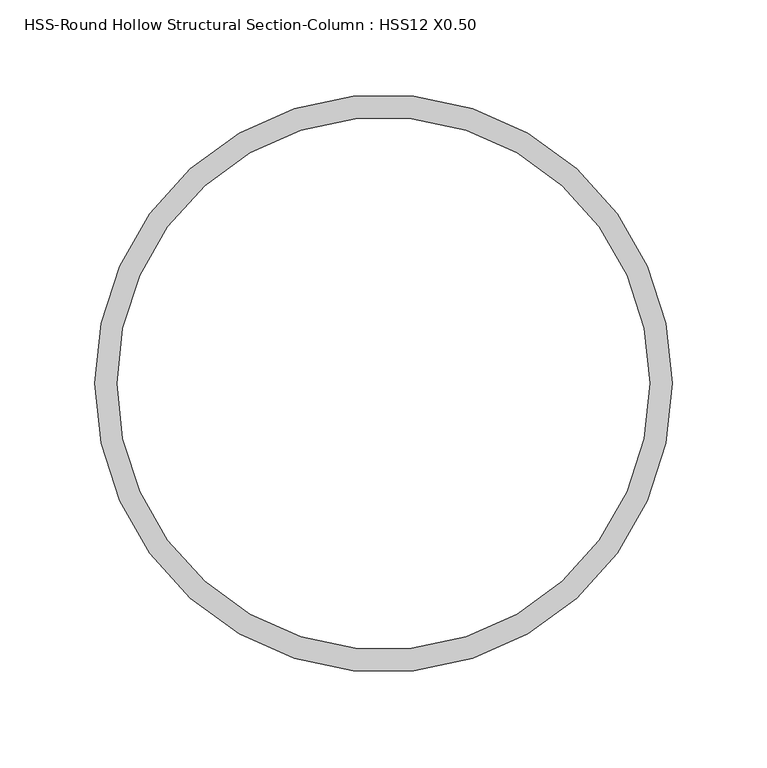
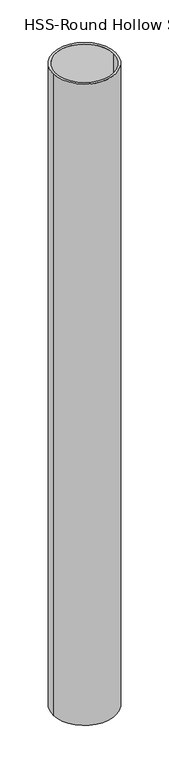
"""IFC4 building model written with IfcOpenShell, lengths in millimetres: column geometry, HSS-Round Hollow Structural Section-Column : HSS12 X0.50."""

from ifc_helpers import new_model, si_unit, point, frame, origin, origin_2d, place, context, project, spatial, circle_curve, trimmed, segment, composite_curve, outline, extrude, source, transform, mapped, element, save


def hss_round_hollow_structural_section_column_hss12_x0_50_ed3e6df6(model_context):
    return source(origin(), model_context, "Body", "SweptSolid", [
        extrude(outline(composite_curve([segment(trimmed(circle_curve(origin_2d(), 152.4), [point((-152.4, 0.0))], [point((152.4, 0.0))], False, "CARTESIAN"), True, "CONTINUOUS"), segment(trimmed(circle_curve(origin_2d(), 152.4), [point((152.4, 0.0))], [point((-152.4, 0.0))], False, "CARTESIAN"), True, "CONTINUOUS")], self_intersect=False), holes=[composite_curve([segment(trimmed(circle_curve(origin_2d(), 140.589), [point((-140.589, 0.0))], [point((140.589, 0.0))], True, "CARTESIAN"), True, "CONTINUOUS"), segment(trimmed(circle_curve(origin_2d(), 140.589), [point((140.589, 0.0))], [point((-140.589, 0.0))], True, "CARTESIAN"), True, "CONTINUOUS")], self_intersect=False)]), frame((0.0, 0.0, 290080.7), z_axis=(0.0, 0.0, 1.0), x_axis=(1.0, 0.0, 0.0)), (0.0, 0.0, 1.0), 3289.3),
    ])


if __name__ == "__main__":
    model = new_model("IFC4")
    model_context = context("Model", 3, world=origin())
    ifc_project = project(units=[si_unit("LENGTHUNIT", "METRE", prefix="MILLI")], contexts=[model_context])
    site = spatial("IfcSite", under=ifc_project)
    building = spatial("IfcBuilding", under=site)
    placement = place(None, origin())
    hss_round_hollow_structural_section_column_hss12_x0_50_shape = hss_round_hollow_structural_section_column_hss12_x0_50_ed3e6df6(model_context)
    element("IfcColumn", 1, ObjectType="HSS-Round Hollow Structural Section-Column : HSS12 X0.50", at=placement, inside=building, context=model_context, shape_type="MappedRepresentation", body=[
        mapped(hss_round_hollow_structural_section_column_hss12_x0_50_shape, transform((0.0, 0.0, 0.0), x_axis=(1.0, 0.0, 0.0), y_axis=(0.0, 1.0, 0.0), z_axis=(0.0, 0.0, 1.0))),
    ])
    save(model, "model.ifc")
